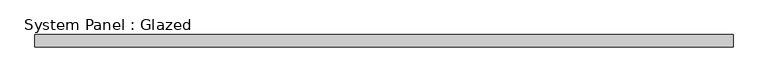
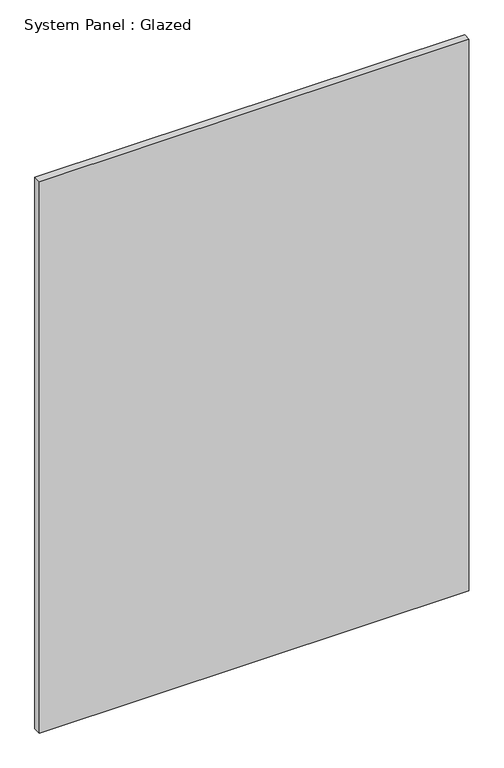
"""IFC4 building model written with IfcOpenShell, lengths in millimetres: plate geometry, System Panel : Glazed."""

from ifc_helpers import new_model, si_unit, origin, origin_with_axes, place, context, project, spatial, polyline, outline, extrude, source, transform, mapped, element, save


def system_panel_glazed_62bce807(model_context):
    return source(origin(), model_context, "Body", "SweptSolid", [
        extrude(outline(polyline([(700.0, -12.5), (-700.0, -12.5), (-700.0, 12.5), (700.0, 12.5), (700.0, -12.5)])), origin_with_axes(), (0.0, 0.0, 1.0), 1900.0),
    ])


if __name__ == "__main__":
    model = new_model("IFC4")
    model_context = context("Model", 3, world=origin())
    ifc_project = project(units=[si_unit("LENGTHUNIT", "METRE", prefix="MILLI")], contexts=[model_context])
    site = spatial("IfcSite", under=ifc_project)
    building = spatial("IfcBuilding", under=site)
    placement = place(None, origin())
    system_panel_glazed_shape = system_panel_glazed_62bce807(model_context)
    element("IfcPlate", 1, ObjectType="System Panel : Glazed", at=placement, inside=building, context=model_context, shape_type="MappedRepresentation", body=[
        mapped(system_panel_glazed_shape, transform((0.0, 0.0, 0.0), x_axis=(1.0, 0.0, 0.0), y_axis=(0.0, 1.0, 0.0), z_axis=(0.0, 0.0, 1.0))),
    ])
    save(model, "model.ifc")
